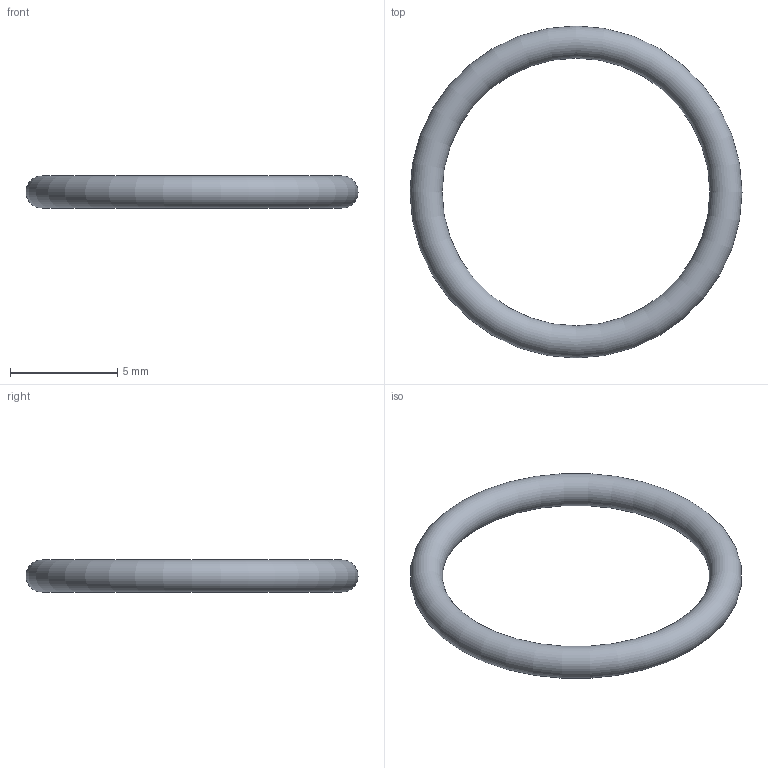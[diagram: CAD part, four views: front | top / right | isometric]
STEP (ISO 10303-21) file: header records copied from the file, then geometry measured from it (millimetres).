
FILE_DESCRIPTION(('FreeCAD Model'),'2;1');
FILE_NAME('Open CASCADE Shape Model','2026-10-30T14:44:42',('FreeCAD'),( 'FreeCAD'),'Open CASCADE STEP processor 7.8','FreeCAD','Unknown');
FILE_SCHEMA(('AUTOMOTIVE_DESIGN { 1 0 10303 214 1 1 1 1 }'));
Length unit declared in the file: millimetre
Products named in the file (1): Open CASCADE STEP translator 7.8 12
Bounding box: 15.5 x 15.5 x 1.5 mm (x, y, z)
Volume: 77.7 mm3; surface area: 207.3 mm2
Topology: 1 solids, 1 shells, 1 faces, 2 edges, 1 vertices
Faces by surface type: torus 1
Entity records: 44 total; most frequent: DIRECTION 8, CARTESIAN_POINT 5, AXIS2_PLACEMENT_3D 4, ORIENTED_EDGE 4, EDGE_CURVE 2, CIRCLE 2, APPLICATION_PROTOCOL_DEFINITION 1, APPLICATION_CONTEXT 1
